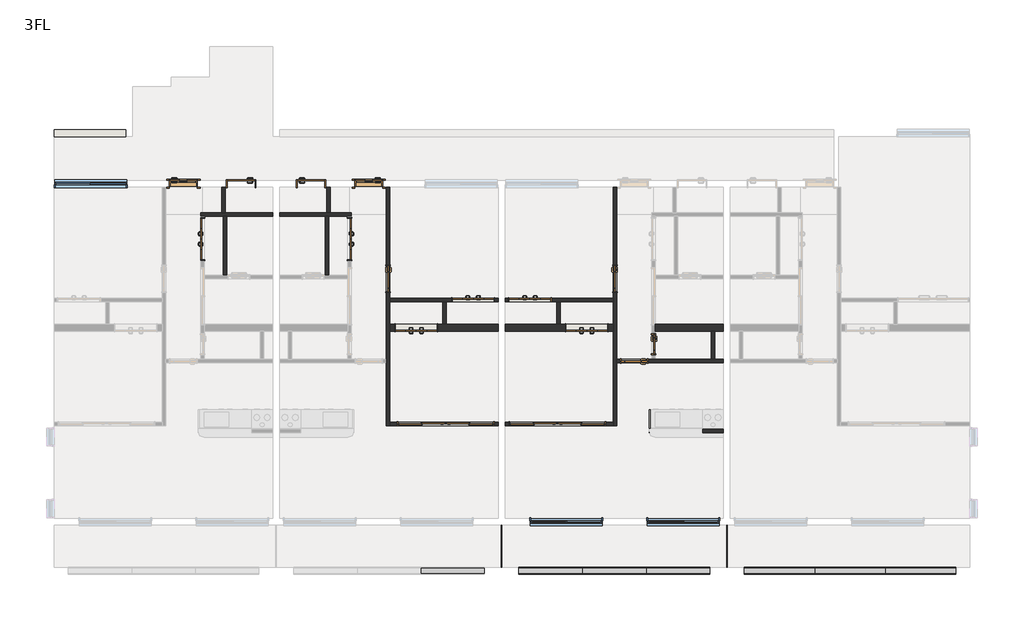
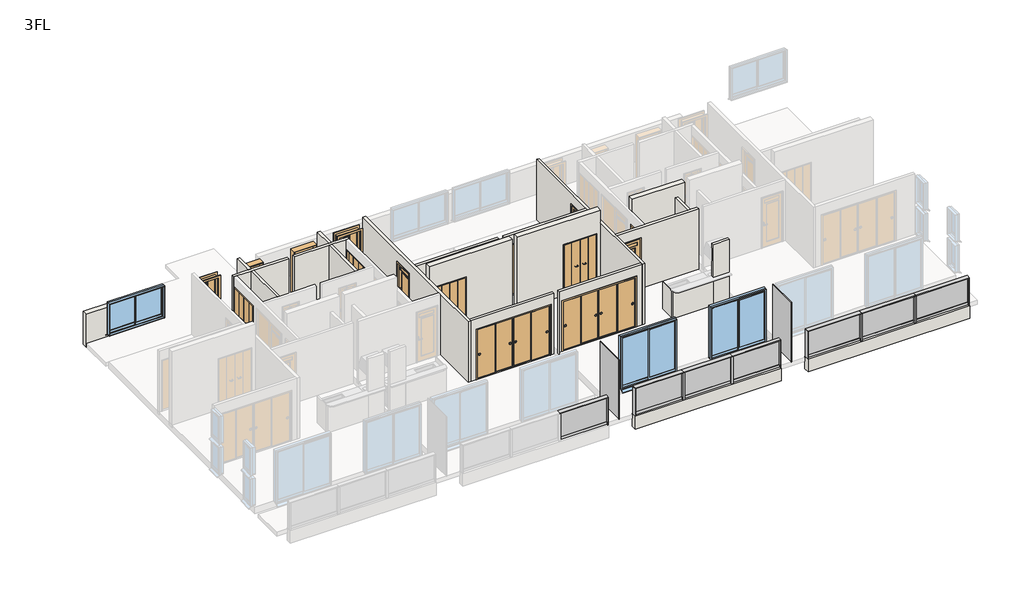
# One storey, part 2 of 3: 25 walls, 16 doors, 16 members, 9 plates, 3 windows.
"""IFC4 building model written with IfcOpenShell, lengths in millimetres."""

from ifc_helpers import new_model, si_unit, frame, origin, place, context, project, spatial, polyline, outline, extrude, faceted_brep, transform, mapped, element, save
from components import door_800x2000_a7d1584b, door_800x2000_010bfebf, w1200h2000_6a144d60, w1200h2000_98cacc9b, w1200h2000_99d19fb3, w1200h2000_ebe1d490, w2800h2000_670b855b, w2800h2000_04aa64cd, w600h2000_7f2747f4, w800h2000_1d97c4d4, w800h2000_13e9f519, w800h2000_ccb03061, w800h2000_0ab7d42c, member_25x150_3f8205e2, member_25x150_f694351b, member_25x150_e95393f9, member_70x150_851c8a9b, plate_9f48129f, plate_365944b3, plate_b830f844, plate_2f85ae4c, plate_cef4847d, window_2000x1200_fc91d1cf, window_2000x2000_f1ff98da

model = new_model("IFC4")

# Units and contexts
model_context = context("Model", 3, world=origin())
ifc_project = project(units=[si_unit("LENGTHUNIT", "METRE", prefix="MILLI")], contexts=[model_context])

# Site, building, storey
site = spatial("IfcSite", under=ifc_project)
building = spatial("IfcBuilding", under=site)
storey = spatial("IfcBuildingStorey", under=building, Name="3FL", Elevation=7000.0)

# Doors
placement = place(None, origin())
door_800x2000_shape = door_800x2000_a7d1584b(model_context)
element("IfcDoor", 1, ObjectType="片開き3 : 800x2000", at=placement, inside=storey, context=model_context, shape_type="MappedRepresentation", body=[
    mapped(door_800x2000_shape, transform((-7378.7187246, -5700.1171638, 7000.0), x_axis=(1.0, 0.0, 0.0), y_axis=(0.0, 1.0, 0.0), z_axis=(0.0, 0.0, 1.0))),
])
door_800x2000_2_shape = door_800x2000_010bfebf(model_context)
element("IfcDoor", 2, ObjectType="片開き3 : 800x2000", at=placement, inside=storey, context=model_context, shape_type="MappedRepresentation", body=[
    mapped(door_800x2000_2_shape, transform((-2078.7187246, -5700.1171638, 7000.0), x_axis=(-1.0, 0.0, 0.0), y_axis=(0.0, -1.0, 0.0), z_axis=(0.0, 0.0, 1.0))),
])
w1200h2000_shape = w1200h2000_6a144d60(model_context)
element("IfcDoor", 3, ObjectType="木製折戸 : w1200h2000", at=placement, inside=storey, context=model_context, shape_type="MappedRepresentation", body=[
    mapped(w1200h2000_shape, transform((-6828.7187246, -7280.1171638, 7100.0), x_axis=(0.0, 1.0, 0.0), y_axis=(-1.0, 0.0, 0.0), z_axis=(0.0, 0.0, 1.0))),
])
element("IfcDoor", 4, ObjectType="木製折戸 : w1200h2000", at=placement, inside=storey, context=model_context, shape_type="MappedRepresentation", body=[
    mapped(w1200h2000_shape, transform((2533.7812754, -9020.1171638, 7100.0), x_axis=(1.0, 0.0, 0.0), y_axis=(0.0, 1.0, 0.0), z_axis=(0.0, 0.0, 1.0))),
])
w1200h2000_2_shape = w1200h2000_98cacc9b(model_context)
element("IfcDoor", 5, ObjectType="木製折戸 : w1200h2000", at=placement, inside=storey, context=model_context, shape_type="MappedRepresentation", body=[
    mapped(w1200h2000_2_shape, transform((4158.7812754, -9820.1171638, 7100.0), x_axis=(-1.0, 0.0, 0.0), y_axis=(0.0, -1.0, 0.0), z_axis=(0.0, 0.0, 1.0))),
])
w1200h2000_3_shape = w1200h2000_99d19fb3(model_context)
element("IfcDoor", 6, ObjectType="木製折戸 : w1200h2000", at=placement, inside=storey, context=model_context, shape_type="MappedRepresentation", body=[
    mapped(w1200h2000_3_shape, transform((908.7812754, -9020.1171638, 7100.0), x_axis=(-1.0, 0.0, 0.0), y_axis=(0.0, -1.0, 0.0), z_axis=(0.0, 0.0, 1.0))),
])
element("IfcDoor", 7, ObjectType="木製折戸 : w1200h2000", at=placement, inside=storey, context=model_context, shape_type="MappedRepresentation", body=[
    mapped(w1200h2000_3_shape, transform((-2628.7187246, -7280.1171638, 7100.0), x_axis=(0.0, 1.0, 0.0), y_axis=(-1.0, 0.0, 0.0), z_axis=(0.0, 0.0, 1.0))),
])
w1200h2000_4_shape = w1200h2000_ebe1d490(model_context)
element("IfcDoor", 8, ObjectType="木製折戸 : w1200h2000", at=placement, inside=storey, context=model_context, shape_type="MappedRepresentation", body=[
    mapped(w1200h2000_4_shape, transform((-716.2187246, -9820.1171638, 7100.0), x_axis=(1.0, 0.0, 0.0), y_axis=(0.0, 1.0, 0.0), z_axis=(0.0, 0.0, 1.0))),
])
w2800h2000_shape = w2800h2000_670b855b(model_context)
element("IfcDoor", 9, ObjectType="引違い 4 枚 2 溝_襖 : w2800h2000", at=placement, inside=storey, context=model_context, shape_type="MappedRepresentation", body=[
    mapped(w2800h2000_shape, transform((3315.7457714, -12570.1171638, 7100.0), x_axis=(-1.0, 0.0, 0.0), y_axis=(0.0, -1.0, 0.0), z_axis=(0.0, 0.0, 1.0))),
])
w2800h2000_2_shape = w2800h2000_04aa64cd(model_context)
element("IfcDoor", 10, ObjectType="引違い 4 枚 2 溝_襖 : w2800h2000", at=placement, inside=storey, context=model_context, shape_type="MappedRepresentation", body=[
    mapped(w2800h2000_2_shape, transform((126.8167793, -12570.1171638, 7100.0), x_axis=(1.0, 0.0, 0.0), y_axis=(0.0, 1.0, 0.0), z_axis=(0.0, 0.0, 1.0))),
])
w600h2000_shape = w600h2000_7f2747f4(model_context)
element("IfcDoor", 11, ObjectType="片開戸CL2058 : w600h2000", at=placement, inside=storey, context=model_context, shape_type="MappedRepresentation", body=[
    mapped(w600h2000_shape, transform((6071.2812754, -10295.1171638, 7100.0), x_axis=(0.0, -1.0, 0.0), y_axis=(1.0, 0.0, 0.0), z_axis=(0.0, 0.0, 1.0))),
])
w800h2000_shape = w800h2000_1d97c4d4(model_context)
element("IfcDoor", 12, ObjectType="片開 : w800h2000", at=placement, inside=storey, context=model_context, shape_type="MappedRepresentation", body=[
    mapped(w800h2000_shape, transform((-5728.7187246, -5700.1171638, 7000.0), x_axis=(-1.0, 0.0, 0.0), y_axis=(0.0, -1.0, 0.0), z_axis=(0.0, 0.0, 1.0))),
])
w800h2000_2_shape = w800h2000_13e9f519(model_context)
element("IfcDoor", 13, ObjectType="片開戸CL2058 : w800h2000", at=placement, inside=storey, context=model_context, shape_type="MappedRepresentation", body=[
    mapped(w800h2000_2_shape, transform((4971.2812754, -8420.1171638, 7100.0), x_axis=(0.0, -1.0, 0.0), y_axis=(1.0, 0.0, 0.0), z_axis=(0.0, 0.0, 1.0))),
])
w800h2000_3_shape = w800h2000_ccb03061(model_context)
element("IfcDoor", 14, ObjectType="片開戸CL2058 : w800h2000", at=placement, inside=storey, context=model_context, shape_type="MappedRepresentation", body=[
    mapped(w800h2000_3_shape, transform((-1528.7187246, -8420.1171638, 7100.0), x_axis=(0.0, -1.0, 0.0), y_axis=(1.0, 0.0, 0.0), z_axis=(0.0, 0.0, 1.0))),
])
element("IfcDoor", 15, ObjectType="片開戸CL2058 : w800h2000", at=placement, inside=storey, context=model_context, shape_type="MappedRepresentation", body=[
    mapped(w800h2000_3_shape, transform((5521.2812754, -10770.1171638, 7100.0), x_axis=(-1.0, 0.0, 0.0), y_axis=(0.0, -1.0, 0.0), z_axis=(0.0, 0.0, 1.0))),
])
w800h2000_4_shape = w800h2000_0ab7d42c(model_context)
element("IfcDoor", 16, ObjectType="片開 : w800h2000", at=placement, inside=storey, context=model_context, shape_type="MappedRepresentation", body=[
    mapped(w800h2000_4_shape, transform((-3728.7187246, -5700.1171638, 7000.0), x_axis=(1.0, 0.0, 0.0), y_axis=(0.0, 1.0, 0.0), z_axis=(0.0, 0.0, 1.0))),
])

# Members
member_25x150_shape = member_25x150_3f8205e2(model_context)
element("IfcMember", 17, ObjectType="長方形のマリオン : 25x150", at=placement, inside=storey, context=model_context, shape_type="MappedRepresentation", body=[
    mapped(member_25x150_shape, transform((1221.2812754, -16770.1171638, 7000.0), x_axis=(1.0, 0.0, 0.0), y_axis=(0.0, -1.0, 0.0), z_axis=(0.0, 0.0, -1.0))),
])
element("IfcMember", 18, ObjectType="長方形のマリオン : 25x150", at=placement, inside=storey, context=model_context, shape_type="MappedRepresentation", body=[
    mapped(member_25x150_shape, transform((7671.2812754, -16770.1171638, 7000.0), x_axis=(1.0, 0.0, 0.0), y_axis=(0.0, -1.0, 0.0), z_axis=(0.0, 0.0, -1.0))),
])
element("IfcMember", 19, ObjectType="長方形のマリオン : 25x150", at=placement, inside=storey, context=model_context, shape_type="MappedRepresentation", body=[
    mapped(member_25x150_shape, transform((14721.2812754, -16770.1171638, 7000.0), x_axis=(1.0, 0.0, 0.0), y_axis=(0.0, -1.0, 0.0), z_axis=(0.0, 0.0, -1.0))),
])
element("IfcMember", 20, ObjectType="長方形のマリオン : 25x150", at=placement, inside=storey, context=model_context, shape_type="MappedRepresentation", body=[
    mapped(member_25x150_shape, transform((2221.2812754, -16770.1171638, 8075.0), x_axis=(-1.0, 0.0, 0.0), y_axis=(0.0, -1.0, 0.0), z_axis=(0.0, 0.0, 1.0))),
])
element("IfcMember", 21, ObjectType="長方形のマリオン : 25x150", at=placement, inside=storey, context=model_context, shape_type="MappedRepresentation", body=[
    mapped(member_25x150_shape, transform((8671.2812754, -16770.1171638, 8075.0), x_axis=(-1.0, 0.0, 0.0), y_axis=(0.0, -1.0, 0.0), z_axis=(0.0, 0.0, 1.0))),
])
member_25x150_2_shape = member_25x150_f694351b(model_context)
element("IfcMember", 22, ObjectType="長方形のマリオン : 25x150", at=placement, inside=storey, context=model_context, shape_type="MappedRepresentation", body=[
    mapped(member_25x150_2_shape, transform((1221.2812754, -16770.1171638, 8100.0), x_axis=(0.0, 0.0, 1.0), y_axis=(0.0, -1.0, 0.0), z_axis=(1.0, 0.0, 0.0))),
])
element("IfcMember", 23, ObjectType="長方形のマリオン : 25x150", at=placement, inside=storey, context=model_context, shape_type="MappedRepresentation", body=[
    mapped(member_25x150_2_shape, transform((7671.2812754, -16770.1171638, 8100.0), x_axis=(0.0, 0.0, 1.0), y_axis=(0.0, -1.0, 0.0), z_axis=(1.0, 0.0, 0.0))),
])
element("IfcMember", 24, ObjectType="長方形のマリオン : 25x150", at=placement, inside=storey, context=model_context, shape_type="MappedRepresentation", body=[
    mapped(member_25x150_2_shape, transform((4037.947942, -16770.1171638, 8100.0), x_axis=(0.0, 0.0, 1.0), y_axis=(0.0, -1.0, 0.0), z_axis=(1.0, 0.0, 0.0))),
])
element("IfcMember", 25, ObjectType="長方形のマリオン : 25x150", at=placement, inside=storey, context=model_context, shape_type="MappedRepresentation", body=[
    mapped(member_25x150_2_shape, transform((5854.6146087, -16770.1171638, 8100.0), x_axis=(0.0, 0.0, 1.0), y_axis=(0.0, -1.0, 0.0), z_axis=(1.0, 0.0, 0.0))),
])
member_25x150_3_shape = member_25x150_e95393f9(model_context)
element("IfcMember", 26, ObjectType="長方形のマリオン : 25x150", at=placement, inside=storey, context=model_context, shape_type="MappedRepresentation", body=[
    mapped(member_25x150_3_shape, transform((14721.2812754, -16770.1171638, 8100.0), x_axis=(0.0, 0.0, 1.0), y_axis=(0.0, -1.0, 0.0), z_axis=(1.0, 0.0, 0.0))),
])
element("IfcMember", 27, ObjectType="長方形のマリオン : 25x150", at=placement, inside=storey, context=model_context, shape_type="MappedRepresentation", body=[
    mapped(member_25x150_3_shape, transform((10687.947942, -16770.1171638, 8100.0), x_axis=(0.0, 0.0, 1.0), y_axis=(0.0, -1.0, 0.0), z_axis=(1.0, 0.0, 0.0))),
])
element("IfcMember", 28, ObjectType="長方形のマリオン : 25x150", at=placement, inside=storey, context=model_context, shape_type="MappedRepresentation", body=[
    mapped(member_25x150_3_shape, transform((12704.6146087, -16770.1171638, 8100.0), x_axis=(0.0, 0.0, 1.0), y_axis=(0.0, -1.0, 0.0), z_axis=(1.0, 0.0, 0.0))),
])
member_70x150_shape = member_70x150_851c8a9b(model_context)
element("IfcMember", 29, ObjectType="長方形のマリオン : 70x150", at=placement, inside=storey, context=model_context, shape_type="MappedRepresentation", body=[
    mapped(member_70x150_shape, transform((4037.947942, -16770.1171638, 7000.0), x_axis=(1.0, 0.0, 0.0), y_axis=(0.0, -1.0, 0.0), z_axis=(0.0, 0.0, -1.0))),
])
element("IfcMember", 30, ObjectType="長方形のマリオン : 70x150", at=placement, inside=storey, context=model_context, shape_type="MappedRepresentation", body=[
    mapped(member_70x150_shape, transform((5854.6146087, -16770.1171638, 7000.0), x_axis=(1.0, 0.0, 0.0), y_axis=(0.0, -1.0, 0.0), z_axis=(0.0, 0.0, -1.0))),
])
element("IfcMember", 31, ObjectType="長方形のマリオン : 70x150", at=placement, inside=storey, context=model_context, shape_type="MappedRepresentation", body=[
    mapped(member_70x150_shape, transform((10687.947942, -16770.1171638, 7000.0), x_axis=(1.0, 0.0, 0.0), y_axis=(0.0, -1.0, 0.0), z_axis=(0.0, 0.0, -1.0))),
])
element("IfcMember", 32, ObjectType="長方形のマリオン : 70x150", at=placement, inside=storey, context=model_context, shape_type="MappedRepresentation", body=[
    mapped(member_70x150_shape, transform((12704.6146087, -16770.1171638, 7000.0), x_axis=(1.0, 0.0, 0.0), y_axis=(0.0, -1.0, 0.0), z_axis=(0.0, 0.0, -1.0))),
])

# Plates
plate_shape = plate_9f48129f(model_context)
element("IfcPlate", 33, ObjectType="r パネル FIX 下框付 : 框 H100", at=placement, inside=storey, context=model_context, shape_type="MappedRepresentation", body=[
    mapped(plate_shape, transform((317.947942, -16770.1171638, 7000.0), x_axis=(1.0, 0.0, 0.0), y_axis=(0.0, 1.0, 0.0), z_axis=(0.0, 0.0, 1.0))),
])
element("IfcPlate", 34, ObjectType="r パネル FIX 下框付 : 框 H100", at=placement, inside=storey, context=model_context, shape_type="MappedRepresentation", body=[
    mapped(plate_shape, transform((3124.6146087, -16770.1171638, 7000.0), x_axis=(1.0, 0.0, 0.0), y_axis=(0.0, 1.0, 0.0), z_axis=(0.0, 0.0, 1.0))),
])
element("IfcPlate", 35, ObjectType="r パネル FIX 下框付 : 框 H100", at=placement, inside=storey, context=model_context, shape_type="MappedRepresentation", body=[
    mapped(plate_shape, transform((6767.947942, -16770.1171638, 7000.0), x_axis=(1.0, 0.0, 0.0), y_axis=(0.0, 1.0, 0.0), z_axis=(0.0, 0.0, 1.0))),
])
plate_2_shape = plate_365944b3(model_context)
element("IfcPlate", 36, ObjectType="r パネル FIX 下框付 : 框 H100", at=placement, inside=storey, context=model_context, shape_type="MappedRepresentation", body=[
    mapped(plate_2_shape, transform((4946.2812754, -16770.1171638, 7000.0), x_axis=(1.0, 0.0, 0.0), y_axis=(0.0, 1.0, 0.0), z_axis=(0.0, 0.0, 1.0))),
])
plate_3_shape = plate_b830f844(model_context)
element("IfcPlate", 37, ObjectType="r パネル FIX 下框付 : 框 H100", at=placement, inside=storey, context=model_context, shape_type="MappedRepresentation", body=[
    mapped(plate_3_shape, transform((9674.6146087, -16770.1171638, 7000.0), x_axis=(1.0, 0.0, 0.0), y_axis=(0.0, 1.0, 0.0), z_axis=(0.0, 0.0, 1.0))),
])
element("IfcPlate", 38, ObjectType="r パネル FIX 下框付 : 框 H100", at=placement, inside=storey, context=model_context, shape_type="MappedRepresentation", body=[
    mapped(plate_3_shape, transform((13717.947942, -16770.1171638, 7000.0), x_axis=(1.0, 0.0, 0.0), y_axis=(0.0, 1.0, 0.0), z_axis=(0.0, 0.0, 1.0))),
])
plate_4_shape = plate_2f85ae4c(model_context)
element("IfcPlate", 39, ObjectType="r パネル FIX 下框付 : 框 H100", at=placement, inside=storey, context=model_context, shape_type="MappedRepresentation", body=[
    mapped(plate_4_shape, transform((11696.2812754, -16770.1171638, 7000.0), x_axis=(1.0, 0.0, 0.0), y_axis=(0.0, 1.0, 0.0), z_axis=(0.0, 0.0, 1.0))),
])
plate_5_shape = plate_cef4847d(model_context)
element("IfcPlate", 40, ObjectType="システム パネル : 標準", at=placement, inside=storey, context=model_context, shape_type="MappedRepresentation", body=[
    mapped(plate_5_shape, transform((1721.2812754, -16070.1171638, 6950.0), x_axis=(0.0, -1.0, 0.0), y_axis=(1.0, 0.0, 0.0), z_axis=(0.0, 0.0, 1.0))),
])
element("IfcPlate", 41, ObjectType="システム パネル : 標準", at=placement, inside=storey, context=model_context, shape_type="MappedRepresentation", body=[
    mapped(plate_5_shape, transform((8171.2812754, -16070.1171638, 6950.0), x_axis=(0.0, -1.0, 0.0), y_axis=(1.0, 0.0, 0.0), z_axis=(0.0, 0.0, 1.0))),
])

# Walls
element("IfcWall", 42, ObjectType="(R)RC200", at=placement, inside=storey, context=model_context, shape_type="Brep", body=[
    faceted_brep([(1621.2812754, -9720.1171638, 7000.0), (146.2812754, -9720.1171638, 7000.0), (46.2812754, -9720.1171638, 7000.0), (-1478.7187246, -9720.1171638, 7000.0), (-1478.7187246, -9720.1171638, 10000.0), (1621.2812754, -9720.1171638, 10000.0), (-96.2187246, -9720.1171638, 9120.0), (-1336.2187246, -9720.1171638, 9120.0), (-1336.2187246, -9720.1171638, 7100.0), (-96.2187246, -9720.1171638, 7100.0), (1621.2812754, -9920.1171638, 7000.0), (1621.2812754, -9920.1171638, 10000.0), (-1478.7187246, -9920.1171638, 10000.0), (-1478.7187246, -9920.1171638, 7000.0), (-96.2187246, -9920.1171638, 9120.0), (-96.2187246, -9920.1171638, 7100.0), (-1336.2187246, -9920.1171638, 7100.0), (-1336.2187246, -9920.1171638, 9120.0)], [[[0, 1, 2, 3, 4, 5], [6, 7, 8, 9]], [[10, 11, 12, 13], [14, 15, 16, 17]], [[3, 2, 1, 0, 10, 13]], [[5, 4, 12, 11]], [[4, 3, 13, 12]], [[15, 14, 6, 9]], [[16, 15, 9, 8]], [[17, 16, 8, 7]], [[14, 17, 7, 6]], [[0, 5, 11, 10]]]),
])
element("IfcWall", 43, ObjectType="(R)RC200", at=placement, inside=storey, context=model_context, shape_type="Brep", body=[
    faceted_brep([(1821.2812754, -9920.1171638, 7000.0), (4921.2812754, -9920.1171638, 7000.0), (4921.2812754, -9920.1171638, 10000.0), (1821.2812754, -9920.1171638, 10000.0), (3538.7812754, -9920.1171638, 9120.0), (4778.7812754, -9920.1171638, 9120.0), (4778.7812754, -9920.1171638, 7100.0), (3538.7812754, -9920.1171638, 7100.0), (1821.2812754, -9720.1171638, 7000.0), (1821.2812754, -9720.1171638, 10000.0), (4921.2812754, -9720.1171638, 10000.0), (4921.2812754, -9720.1171638, 7000.0), (3396.2812754, -9720.1171638, 7000.0), (3296.2812754, -9720.1171638, 7000.0), (3538.7812754, -9720.1171638, 9120.0), (3538.7812754, -9720.1171638, 7100.0), (4778.7812754, -9720.1171638, 7100.0), (4778.7812754, -9720.1171638, 9120.0)], [[[0, 1, 2, 3], [4, 5, 6, 7]], [[8, 9, 10, 11, 12, 13], [14, 15, 16, 17]], [[1, 0, 8, 13, 12, 11]], [[3, 2, 10, 9]], [[2, 1, 11, 10]], [[15, 14, 4, 7]], [[16, 15, 7, 6]], [[17, 16, 6, 5]], [[14, 17, 5, 4]], [[0, 3, 9, 8]]]),
])
element("IfcWall", 44, ObjectType="(R)RC200", at=placement, inside=storey, context=model_context, shape_type="Brep", body=[
    faceted_brep([(6121.2812754, -9920.1171638, 7000.0), (7721.2812754, -9920.1171638, 7000.0), (7821.2812754, -9920.1171638, 7000.0), (8071.2812754, -9920.1171638, 7000.0), (8071.2812754, -9920.1171638, 10000.0), (6121.2812754, -9920.1171638, 10000.0), (6121.2812754, -9720.1171638, 7000.0), (6121.2812754, -9720.1171638, 10000.0), (8071.2812754, -9720.1171638, 10000.0), (8071.2812754, -9720.1171638, 7000.0)], [[[0, 1, 2, 3, 4, 5]], [[6, 7, 8, 9]], [[3, 2, 1, 0, 6, 9]], [[5, 4, 8, 7]], [[0, 5, 7, 6]], [[4, 3, 9, 8]]]),
])
element("IfcWall", 45, ObjectType="(R)RC200", at=placement, inside=storey, context=model_context, shape_type="SweptSolid", body=[
    extrude(outline(polyline([(-9028.7187246, -4350.1171638), (-11078.7187246, -4350.1171638), (-11078.7187246, -4150.1171638), (-9028.7187246, -4150.1171638), (-9028.7187246, -4350.1171638)])), frame((0.0, 0.0, 6800.0), z_axis=(0.0, 0.0, 1.0), x_axis=(1.0, 0.0, 0.0)), (0.0, 0.0, 1.0), 1300.0),
])
element("IfcWall", 46, ObjectType="(R)RC200", at=placement, inside=storey, context=model_context, shape_type="SweptSolid", body=[
    extrude(outline(polyline([(7671.2812754, -16870.1171638), (2221.2812754, -16870.1171638), (2221.2812754, -16670.1171638), (7671.2812754, -16670.1171638), (7671.2812754, -16870.1171638)])), frame((0.0, 0.0, 6500.0), z_axis=(0.0, 0.0, 1.0), x_axis=(1.0, 0.0, 0.0)), (0.0, 0.0, 1.0), 500.0),
])
element("IfcWall", 47, ObjectType="(R)RC200", at=placement, inside=storey, context=model_context, shape_type="SweptSolid", body=[
    extrude(outline(polyline([(14721.2812754, -16870.1171638), (8671.2812754, -16870.1171638), (8671.2812754, -16670.1171638), (14721.2812754, -16670.1171638), (14721.2812754, -16870.1171638)])), frame((0.0, 0.0, 6500.0), z_axis=(0.0, 0.0, 1.0), x_axis=(1.0, 0.0, 0.0)), (0.0, 0.0, 1.0), 500.0),
])
element("IfcWall", 48, ObjectType="(F)30", at=placement, inside=storey, context=model_context, shape_type="SweptSolid", body=[
    extrude(outline(polyline([(5948.8875596, -12720.1171638), (5948.8875596, -12165.1171638), (5978.8875596, -12165.1171638), (5978.8875596, -12720.1171638), (5948.8875596, -12720.1171638)])), frame((0.0, 0.0, 7100.0), z_axis=(0.0, 0.0, 1.0), x_axis=(1.0, 0.0, 0.0)), (0.0, 0.0, 1.0), 1060.0),
])
element("IfcWall", 49, ObjectType="(L1)LGS100", at=placement, inside=storey, context=model_context, shape_type="Brep", body=[
    faceted_brep([(-6878.7187246, -6630.1171638, 7000.0), (-6778.7187246, -6630.1171638, 7000.0), (-6238.7187246, -6630.1171638, 7000.0), (-6138.7187246, -6630.1171638, 7000.0), (-4828.7187246, -6630.1171638, 7000.0), (-4828.7187246, -6630.1171638, 9500.0), (-6138.7187246, -6630.1171638, 9500.0), (-6238.7187246, -6630.1171638, 9500.0), (-6778.7187246, -6630.1171638, 9500.0), (-6878.7187246, -6630.1171638, 9500.0), (-6878.7187246, -6530.1171638, 7000.0), (-6878.7187246, -6530.1171638, 9500.0), (-6278.7187246, -6530.1171638, 9500.0), (-6178.7187246, -6530.1171638, 9500.0), (-4828.7187246, -6530.1171638, 9500.0), (-4828.7187246, -6530.1171638, 7000.0), (-6178.7187246, -6530.1171638, 7000.0), (-6278.7187246, -6530.1171638, 7000.0)], [[[0, 1, 2, 3, 4, 5, 6, 7, 8, 9]], [[10, 11, 12, 13, 14, 15, 16, 17]], [[4, 3, 2, 1, 0, 10, 17, 16, 15]], [[9, 8, 7, 6, 5, 14, 13, 12, 11]], [[0, 9, 11, 10]], [[5, 4, 15, 14]]]),
])
element("IfcWall", 50, ObjectType="(L1)LGS100", at=placement, inside=storey, context=model_context, shape_type="SweptSolid", body=[
    extrude(outline(polyline([(-6178.7187246, -5800.1171638), (-6178.7187246, -6530.1171638), (-6278.7187246, -6530.1171638), (-6278.7187246, -5800.1171638), (-6178.7187246, -5800.1171638)])), frame((0.0, 0.0, 7000.0), z_axis=(0.0, 0.0, 1.0), x_axis=(1.0, 0.0, 0.0)), (0.0, 0.0, 1.0), 2500.0),
])
element("IfcWall", 51, ObjectType="(L1)LGS100", at=placement, inside=storey, context=model_context, shape_type="SweptSolid", body=[
    extrude(outline(polyline([(-6138.7187246, -6630.1171638), (-6138.7187246, -8320.1171638), (-6238.7187246, -8320.1171638), (-6238.7187246, -6630.1171638), (-6138.7187246, -6630.1171638)])), frame((0.0, 0.0, 7000.0), z_axis=(0.0, 0.0, 1.0), x_axis=(1.0, 0.0, 0.0)), (0.0, 0.0, 1.0), 2500.0),
])
element("IfcWall", 52, ObjectType="(L1)LGS100", at=placement, inside=storey, context=model_context, shape_type="Brep", body=[
    faceted_brep([(1621.2812754, -8970.1171638, 7000.0), (-1478.7187246, -8970.1171638, 7000.0), (-1478.7187246, -8970.1171638, 9500.0), (1621.2812754, -8970.1171638, 9500.0), (288.7812754, -8970.1171638, 9120.0), (288.7812754, -8970.1171638, 7100.0), (1528.7812754, -8970.1171638, 7100.0), (1528.7812754, -8970.1171638, 9120.0), (-1478.7187246, -9070.1171638, 7000.0), (46.2812754, -9070.1171638, 7000.0), (146.2812754, -9070.1171638, 7000.0), (1621.2812754, -9070.1171638, 7000.0), (1621.2812754, -9070.1171638, 9500.0), (146.2812754, -9070.1171638, 9500.0), (46.2812754, -9070.1171638, 9500.0), (-1478.7187246, -9070.1171638, 9500.0), (288.7812754, -9070.1171638, 7100.0), (288.7812754, -9070.1171638, 9120.0), (1528.7812754, -9070.1171638, 9120.0), (1528.7812754, -9070.1171638, 7100.0)], [[[0, 1, 2, 3], [4, 5, 6, 7]], [[8, 9, 10, 11, 12, 13, 14, 15], [16, 17, 18, 19]], [[1, 0, 11, 10, 9, 8]], [[3, 2, 15, 14, 13, 12]], [[2, 1, 8, 15]], [[4, 17, 16, 5]], [[5, 16, 19, 6]], [[17, 4, 7, 18]], [[18, 7, 6, 19]], [[0, 3, 12, 11]]]),
])
element("IfcWall", 53, ObjectType="(L1)LGS100", at=placement, inside=storey, context=model_context, shape_type="SweptSolid", body=[
    extrude(outline(polyline([(146.2812754, -9070.1171638), (146.2812754, -9720.1171638), (46.2812754, -9720.1171638), (46.2812754, -9070.1171638), (146.2812754, -9070.1171638)])), frame((0.0, 0.0, 7000.0), z_axis=(0.0, 0.0, 1.0), x_axis=(1.0, 0.0, 0.0)), (0.0, 0.0, 1.0), 2500.0),
])
element("IfcWall", 54, ObjectType="(L1)LGS100", at=placement, inside=storey, context=model_context, shape_type="Brep", body=[
    faceted_brep([(-1478.7187246, -12620.1171638, 7000.0), (-1478.7187246, -12520.1171638, 7000.0), (-1478.7187246, -9920.1171638, 7000.0), (-1478.7187246, -9720.1171638, 7000.0), (-1478.7187246, -9070.1171638, 7000.0), (-1478.7187246, -8970.1171638, 7000.0), (-1478.7187246, -5800.1171638, 7000.0), (-1478.7187246, -5800.1171638, 9500.0), (-1478.7187246, -8970.1171638, 9500.0), (-1478.7187246, -9070.1171638, 9500.0), (-1478.7187246, -12520.1171638, 9500.0), (-1478.7187246, -12620.1171638, 9500.0), (-1478.7187246, -8820.1171638, 7100.0), (-1478.7187246, -8820.1171638, 9100.0), (-1478.7187246, -8020.1171638, 9100.0), (-1478.7187246, -8020.1171638, 7100.0), (-1578.7187246, -12620.1171638, 7000.0), (-1578.7187246, -12620.1171638, 9500.0), (-1578.7187246, -10820.1171638, 9500.0), (-1578.7187246, -10720.1171638, 9500.0), (-1578.7187246, -5800.1171638, 9500.0), (-1578.7187246, -5800.1171638, 7000.0), (-1578.7187246, -10720.1171638, 7000.0), (-1578.7187246, -10820.1171638, 7000.0), (-1578.7187246, -8820.1171638, 7100.0), (-1578.7187246, -8020.1171638, 7100.0), (-1578.7187246, -8020.1171638, 9100.0), (-1578.7187246, -8820.1171638, 9100.0)], [[[0, 1, 2, 3, 4, 5, 6, 7, 8, 9, 10, 11], [12, 13, 14, 15]], [[16, 17, 18, 19, 20, 21, 22, 23], [24, 25, 26, 27]], [[6, 5, 4, 3, 2, 1, 0, 16, 23, 22, 21]], [[11, 10, 9, 8, 7, 20, 19, 18, 17]], [[0, 11, 17, 16]], [[13, 12, 24, 27]], [[14, 13, 27, 26]], [[15, 14, 26, 25]], [[12, 15, 25, 24]], [[7, 6, 21, 20]]]),
])
element("IfcWall", 55, ObjectType="(L1)LGS100", at=placement, inside=storey, context=model_context, shape_type="Brep", body=[
    faceted_brep([(-2578.7187246, -6530.1171638, 7000.0), (-3178.7187246, -6530.1171638, 7000.0), (-3278.7187246, -6530.1171638, 7000.0), (-4628.7187246, -6530.1171638, 7000.0), (-4628.7187246, -6530.1171638, 9500.0), (-3278.7187246, -6530.1171638, 9500.0), (-3178.7187246, -6530.1171638, 9500.0), (-2578.7187246, -6530.1171638, 9500.0), (-2578.7187246, -6630.1171638, 7000.0), (-2578.7187246, -6630.1171638, 9500.0), (-2678.7187246, -6630.1171638, 9500.0), (-3218.7187246, -6630.1171638, 9500.0), (-3318.7187246, -6630.1171638, 9500.0), (-4628.7187246, -6630.1171638, 9500.0), (-4628.7187246, -6630.1171638, 7000.0), (-3318.7187246, -6630.1171638, 7000.0), (-3218.7187246, -6630.1171638, 7000.0), (-2678.7187246, -6630.1171638, 7000.0)], [[[0, 1, 2, 3, 4, 5, 6, 7]], [[8, 9, 10, 11, 12, 13, 14, 15, 16, 17]], [[3, 2, 1, 0, 8, 17, 16, 15, 14]], [[7, 6, 5, 4, 13, 12, 11, 10, 9]], [[0, 7, 9, 8]], [[4, 3, 14, 13]]]),
])
element("IfcWall", 56, ObjectType="(L1)LGS100", at=placement, inside=storey, context=model_context, shape_type="SweptSolid", body=[
    extrude(outline(polyline([(-3178.7187246, -5800.1171638), (-3178.7187246, -6530.1171638), (-3278.7187246, -6530.1171638), (-3278.7187246, -5800.1171638), (-3178.7187246, -5800.1171638)])), frame((0.0, 0.0, 7000.0), z_axis=(0.0, 0.0, 1.0), x_axis=(1.0, 0.0, 0.0)), (0.0, 0.0, 1.0), 2500.0),
])
element("IfcWall", 57, ObjectType="(L1)LGS100", at=placement, inside=storey, context=model_context, shape_type="SweptSolid", body=[
    extrude(outline(polyline([(-3218.7187246, -6630.1171638), (-3218.7187246, -8320.1171638), (-3318.7187246, -8320.1171638), (-3318.7187246, -6630.1171638), (-3218.7187246, -6630.1171638)])), frame((0.0, 0.0, 7000.0), z_axis=(0.0, 0.0, 1.0), x_axis=(1.0, 0.0, 0.0)), (0.0, 0.0, 1.0), 2500.0),
])
element("IfcWall", 58, ObjectType="(L1)LGS100", at=placement, inside=storey, context=model_context, shape_type="SweptSolid", body=[
    extrude(outline(polyline([(7000.0, 1621.2812754), (9500.0, 1621.2812754), (9500.0, -1478.7187246), (7000.0, -1478.7187246), (7000.0, 1621.2812754)]), holes=[polyline([(9100.0, 1521.2812754), (7100.0, 1521.2812754), (7100.0, -1278.7187246), (9100.0, -1278.7187246), (9100.0, 1521.2812754)])]), frame((0.0, -12620.1171638, 0.0), z_axis=(0.0, 1.0, 0.0), x_axis=(0.0, 0.0, 1.0)), (0.0, 0.0, 1.0), 100.0),
])
element("IfcWall", 59, ObjectType="(L1)LGS100", at=placement, inside=storey, context=model_context, shape_type="Brep", body=[
    faceted_brep([(1821.2812754, -9070.1171638, 7000.0), (3296.2812754, -9070.1171638, 7000.0), (3396.2812754, -9070.1171638, 7000.0), (4921.2812754, -9070.1171638, 7000.0), (4921.2812754, -9070.1171638, 9500.0), (3396.2812754, -9070.1171638, 9500.0), (3296.2812754, -9070.1171638, 9500.0), (1821.2812754, -9070.1171638, 9500.0), (3153.7812754, -9070.1171638, 9120.0), (3153.7812754, -9070.1171638, 7100.0), (1913.7812754, -9070.1171638, 7100.0), (1913.7812754, -9070.1171638, 9120.0), (4921.2812754, -8970.1171638, 7000.0), (1821.2812754, -8970.1171638, 7000.0), (1821.2812754, -8970.1171638, 9500.0), (4921.2812754, -8970.1171638, 9500.0), (3153.7812754, -8970.1171638, 7100.0), (3153.7812754, -8970.1171638, 9120.0), (1913.7812754, -8970.1171638, 9120.0), (1913.7812754, -8970.1171638, 7100.0)], [[[0, 1, 2, 3, 4, 5, 6, 7], [8, 9, 10, 11]], [[12, 13, 14, 15], [16, 17, 18, 19]], [[3, 2, 1, 0, 13, 12]], [[7, 6, 5, 4, 15, 14]], [[4, 3, 12, 15]], [[8, 17, 16, 9]], [[9, 16, 19, 10]], [[17, 8, 11, 18]], [[18, 11, 10, 19]], [[0, 7, 14, 13]]]),
])
element("IfcWall", 60, ObjectType="(L1)LGS100", at=placement, inside=storey, context=model_context, shape_type="SweptSolid", body=[
    extrude(outline(polyline([(3396.2812754, -9070.1171638), (3396.2812754, -9720.1171638), (3296.2812754, -9720.1171638), (3296.2812754, -9070.1171638), (3396.2812754, -9070.1171638)])), frame((0.0, 0.0, 7000.0), z_axis=(0.0, 0.0, 1.0), x_axis=(1.0, 0.0, 0.0)), (0.0, 0.0, 1.0), 2500.0),
])
element("IfcWall", 61, ObjectType="(L1)LGS100", at=placement, inside=storey, context=model_context, shape_type="Brep", body=[
    faceted_brep([(5021.2812754, -12620.1171638, 7000.0), (5021.2812754, -10820.1171638, 7000.0), (5021.2812754, -10720.1171638, 7000.0), (5021.2812754, -5800.1171638, 7000.0), (5021.2812754, -5800.1171638, 9500.0), (5021.2812754, -10720.1171638, 9500.0), (5021.2812754, -10820.1171638, 9500.0), (5021.2812754, -12620.1171638, 9500.0), (5021.2812754, -8820.1171638, 7100.0), (5021.2812754, -8820.1171638, 9100.0), (5021.2812754, -8020.1171638, 9100.0), (5021.2812754, -8020.1171638, 7100.0), (4921.2812754, -12620.1171638, 7000.0), (4921.2812754, -12620.1171638, 9500.0), (4921.2812754, -12520.1171638, 9500.0), (4921.2812754, -9070.1171638, 9500.0), (4921.2812754, -8970.1171638, 9500.0), (4921.2812754, -5800.1171638, 9500.0), (4921.2812754, -5800.1171638, 7000.0), (4921.2812754, -8970.1171638, 7000.0), (4921.2812754, -9070.1171638, 7000.0), (4921.2812754, -9720.1171638, 7000.0), (4921.2812754, -9920.1171638, 7000.0), (4921.2812754, -12520.1171638, 7000.0), (4921.2812754, -8820.1171638, 7100.0), (4921.2812754, -8020.1171638, 7100.0), (4921.2812754, -8020.1171638, 9100.0), (4921.2812754, -8820.1171638, 9100.0)], [[[0, 1, 2, 3, 4, 5, 6, 7], [8, 9, 10, 11]], [[12, 13, 14, 15, 16, 17, 18, 19, 20, 21, 22, 23], [24, 25, 26, 27]], [[3, 2, 1, 0, 12, 23, 22, 21, 20, 19, 18]], [[7, 6, 5, 4, 17, 16, 15, 14, 13]], [[0, 7, 13, 12]], [[9, 8, 24, 27]], [[10, 9, 27, 26]], [[11, 10, 26, 25]], [[8, 11, 25, 24]], [[4, 3, 18, 17]]]),
])
element("IfcWall", 62, ObjectType="(L1)LGS100", at=placement, inside=storey, context=model_context, shape_type="SweptSolid", body=[
    extrude(outline(polyline([(7821.2812754, -9920.1171638), (7821.2812754, -10720.1171638), (7721.2812754, -10720.1171638), (7721.2812754, -9920.1171638), (7821.2812754, -9920.1171638)])), frame((0.0, 0.0, 7000.0), z_axis=(0.0, 0.0, 1.0), x_axis=(1.0, 0.0, 0.0)), (0.0, 0.0, 1.0), 2500.0),
])
element("IfcWall", 63, ObjectType="(L1)LGS100", at=placement, inside=storey, context=model_context, shape_type="Brep", body=[
    faceted_brep([(5021.2812754, -10820.1171638, 7000.0), (8071.2812754, -10820.1171638, 7000.0), (8071.2812754, -10820.1171638, 9500.0), (5021.2812754, -10820.1171638, 9500.0), (5121.2812754, -10820.1171638, 7100.0), (5121.2812754, -10820.1171638, 9100.0), (5921.2812754, -10820.1171638, 9100.0), (5921.2812754, -10820.1171638, 7100.0), (8071.2812754, -10720.1171638, 7000.0), (7821.2812754, -10720.1171638, 7000.0), (7721.2812754, -10720.1171638, 7000.0), (6121.2812754, -10720.1171638, 7000.0), (6021.2812754, -10720.1171638, 7000.0), (5021.2812754, -10720.1171638, 7000.0), (5021.2812754, -10720.1171638, 9500.0), (6021.2812754, -10720.1171638, 9500.0), (6121.2812754, -10720.1171638, 9500.0), (7721.2812754, -10720.1171638, 9500.0), (7821.2812754, -10720.1171638, 9500.0), (8071.2812754, -10720.1171638, 9500.0), (5121.2812754, -10720.1171638, 9100.0), (5121.2812754, -10720.1171638, 7100.0), (5921.2812754, -10720.1171638, 7100.0), (5921.2812754, -10720.1171638, 9100.0)], [[[0, 1, 2, 3], [4, 5, 6, 7]], [[8, 9, 10, 11, 12, 13, 14, 15, 16, 17, 18, 19], [20, 21, 22, 23]], [[1, 0, 13, 12, 11, 10, 9, 8]], [[3, 2, 19, 18, 17, 16, 15, 14]], [[0, 3, 14, 13]], [[4, 21, 20, 5]], [[5, 20, 23, 6]], [[6, 23, 22, 7]], [[21, 4, 7, 22]], [[2, 1, 8, 19]]]),
])
element("IfcWall", 64, ObjectType="(L1)LGS100", at=placement, inside=storey, context=model_context, shape_type="SweptSolid", body=[
    extrude(outline(polyline([(7000.0, 1821.2812754), (7000.0, 4921.2812754), (9500.0, 4921.2812754), (9500.0, 1821.2812754), (7000.0, 1821.2812754)]), holes=[polyline([(9100.0, 1921.2812754), (9100.0, 4721.2812754), (7100.0, 4721.2812754), (7100.0, 1921.2812754), (9100.0, 1921.2812754)])]), frame((0.0, -12620.1171638, 0.0), z_axis=(0.0, 1.0, 0.0), x_axis=(0.0, 0.0, 1.0)), (0.0, 0.0, 1.0), 100.0),
])
element("IfcWall", 65, ObjectType="(L1)LGS100", at=placement, inside=storey, context=model_context, shape_type="Brep", body=[
    faceted_brep([(8071.2812754, -12720.1171638, 7000.0), (7471.2812754, -12720.1171638, 7000.0), (7471.2812754, -12720.1171638, 8160.0), (7471.2812754, -12720.1171638, 9500.0), (8071.2812754, -12720.1171638, 9500.0), (8071.2812754, -12820.1171638, 7000.0), (8071.2812754, -12820.1171638, 9500.0), (7471.2812754, -12820.1171638, 9500.0), (7471.2812754, -12820.1171638, 8160.0), (7471.2812754, -12820.1171638, 7000.0)], [[[0, 1, 2, 3, 4]], [[5, 6, 7, 8, 9]], [[1, 0, 5, 9]], [[3, 2, 1, 9, 8, 7]], [[4, 3, 7, 6]], [[0, 4, 6, 5]]]),
])
element("IfcWall", 66, ObjectType="(L1)LGS100", at=placement, inside=storey, context=model_context, shape_type="Brep", body=[
    faceted_brep([(5948.8875596, -12820.1171638, 7000.0), (7471.2812754, -12820.1171638, 7000.0), (7471.2812754, -12820.1171638, 8160.0), (5948.8875596, -12820.1171638, 8160.0), (5948.8875596, -12720.1171638, 7000.0), (5948.8875596, -12720.1171638, 7100.0), (5948.8875596, -12720.1171638, 8160.0), (5978.8875596, -12720.1171638, 8160.0), (7471.2812754, -12720.1171638, 8160.0), (7471.2812754, -12720.1171638, 7000.0)], [[[0, 1, 2, 3]], [[4, 5, 6, 7, 8, 9]], [[1, 0, 4, 9]], [[2, 1, 9, 8]], [[3, 2, 8, 7, 6]], [[0, 3, 6, 5, 4]]]),
])

# Windows
window_2000x1200_shape = window_2000x1200_fc91d1cf(model_context)
element("IfcWindow", 67, ObjectType="鋼製_一般枠_引違い-二枚 : 2000x1200", at=placement, inside=storey, context=model_context, shape_type="MappedRepresentation", body=[
    mapped(window_2000x1200_shape, transform((-10028.7187246, -5700.1171638, 7250.0), x_axis=(1.0, 0.0, 0.0), y_axis=(0.0, 1.0, 0.0), z_axis=(0.0, 0.0, 1.0))),
])
window_2000x2000_shape = window_2000x2000_f1ff98da(model_context)
element("IfcWindow", 68, ObjectType="鋼製_一般枠_引違い-二枚 : 2000x2000", at=placement, inside=storey, context=model_context, shape_type="MappedRepresentation", body=[
    mapped(window_2000x2000_shape, transform((3571.2812754, -15370.1171638, 6200.0), x_axis=(-1.0, 0.0, 0.0), y_axis=(0.0, -1.0, 0.0), z_axis=(0.0, 0.0, 1.0))),
])
element("IfcWindow", 69, ObjectType="鋼製_一般枠_引違い-二枚 : 2000x2000", at=placement, inside=storey, context=model_context, shape_type="MappedRepresentation", body=[
    mapped(window_2000x2000_shape, transform((6921.2812754, -15370.1171638, 6200.0), x_axis=(-1.0, 0.0, 0.0), y_axis=(0.0, -1.0, 0.0), z_axis=(0.0, 0.0, 1.0))),
])

save(model, "model.ifc")
